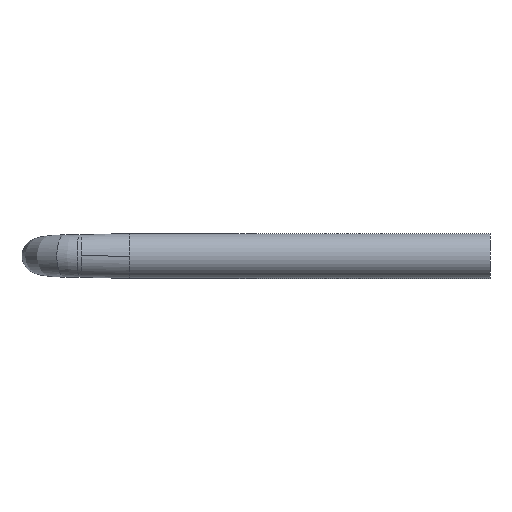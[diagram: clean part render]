
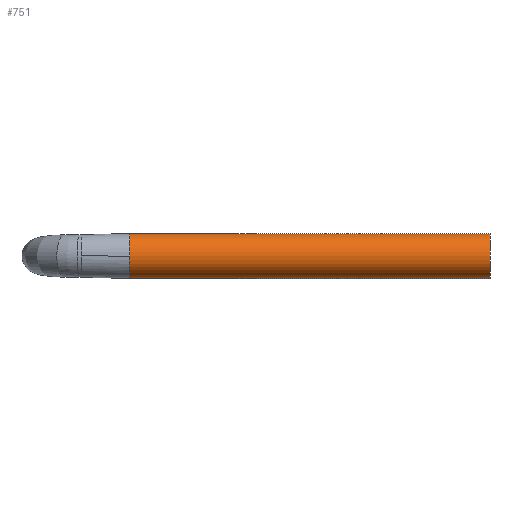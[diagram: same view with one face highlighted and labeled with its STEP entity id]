
A CAD part, front view. The second image highlights one B-rep face of the part: STEP entity #751.
In plain terms, the highlighted cylindrical face has radius 12.5 mm (diameter 25 mm), a partial arc.
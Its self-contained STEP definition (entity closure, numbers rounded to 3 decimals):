
#751=ADVANCED_FACE('',(#1036),#1035,.T.);
#1035=CYLINDRICAL_SURFACE('',#3047,12.5);
#1036=FACE_OUTER_BOUND('',#3048,.T.);
#3044=CARTESIAN_POINT('',(292.695,182.717,0.));
#3045=DIRECTION('',(-1.,0.,0.));
#3046=DIRECTION('',(0.,0.,-1.));
#3047=AXIS2_PLACEMENT_3D('',#3044,#3045,#3046);
#3048=EDGE_LOOP('',(#3277,#3278,#3279,#3280,#3281));
#3277=ORIENTED_EDGE('',*,*,#3372,.T.);
#3278=ORIENTED_EDGE('',*,*,#3365,.T.);
#3279=ORIENTED_EDGE('',*,*,#3394,.F.);
#3280=ORIENTED_EDGE('',*,*,#3333,.T.);
#3281=ORIENTED_EDGE('',*,*,#3395,.T.);
#3333=EDGE_CURVE('',#3469,#3470,#3471,.T.);
#3365=EDGE_CURVE('',#3687,#3679,#3688,.T.);
#3372=EDGE_CURVE('',#3734,#3687,#3735,.T.);
#3394=EDGE_CURVE('',#3469,#3679,#3875,.T.);
#3395=EDGE_CURVE('',#3470,#3734,#3881,.T.);
#3469=VERTEX_POINT('',#3994);
#3470=VERTEX_POINT('',#3995);
#3471=CIRCLE('',#3999,12.5);
#3679=VERTEX_POINT('',#4178);
#3687=VERTEX_POINT('',#4184);
#3688=CIRCLE('',#4188,12.5);
#3734=VERTEX_POINT('',#4211);
#3735=CIRCLE('',#4215,12.5);
#3875=(BOUNDED_CURVE() B_SPLINE_CURVE(1,(#4300,#4301),.UNSPECIFIED.,.F.,.F.) B_SPLINE_CURVE_WITH_KNOTS((2,2),(0.045,0.955),.UNSPECIFIED.) CURVE() GEOMETRIC_REPRESENTATION_ITEM() RATIONAL_B_SPLINE_CURVE((1.,1.)) REPRESENTATION_ITEM('') );
#3881=(BOUNDED_CURVE() B_SPLINE_CURVE(1,(#4302,#4303),.UNSPECIFIED.,.F.,.F.) B_SPLINE_CURVE_WITH_KNOTS((2,2),(0.045,0.955),.UNSPECIFIED.) CURVE() GEOMETRIC_REPRESENTATION_ITEM() RATIONAL_B_SPLINE_CURVE((0.75,0.75)) REPRESENTATION_ITEM('') );
#3994=CARTESIAN_POINT('',(492.695,182.717,-12.5));
#3995=CARTESIAN_POINT('',(492.695,182.717,12.5));
#3996=CARTESIAN_POINT('',(492.695,182.717,0.));
#3997=DIRECTION('',(-1.,0.,0.));
#3998=DIRECTION('',(0.,0.,1.));
#3999=AXIS2_PLACEMENT_3D('',#3996,#3997,#3998);
#4178=CARTESIAN_POINT('',(292.695,182.717,-12.5));
#4184=CARTESIAN_POINT('',(292.695,170.217,0.));
#4185=CARTESIAN_POINT('',(292.695,182.717,0.));
#4186=DIRECTION('',(1.,0.,0.));
#4187=DIRECTION('',(0.,0.,-1.));
#4188=AXIS2_PLACEMENT_3D('',#4185,#4186,#4187);
#4211=CARTESIAN_POINT('',(292.695,182.717,12.5));
#4212=CARTESIAN_POINT('',(292.695,182.717,0.));
#4213=DIRECTION('',(1.,0.,0.));
#4214=DIRECTION('',(0.,0.,-1.));
#4215=AXIS2_PLACEMENT_3D('',#4212,#4213,#4214);
#4300=CARTESIAN_POINT('',(492.695,182.717,-12.5));
#4301=CARTESIAN_POINT('',(292.695,182.717,-12.5));
#4302=CARTESIAN_POINT('',(492.695,182.717,12.5));
#4303=CARTESIAN_POINT('',(292.695,182.717,12.5));
